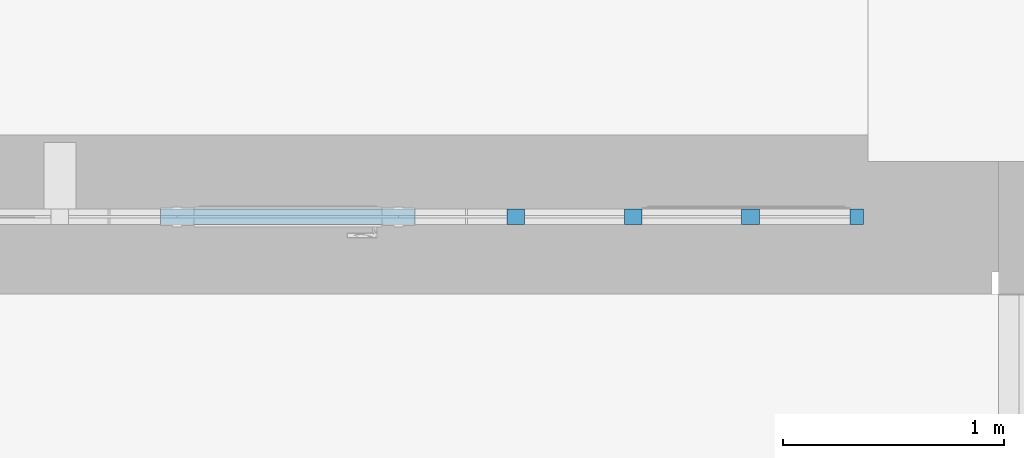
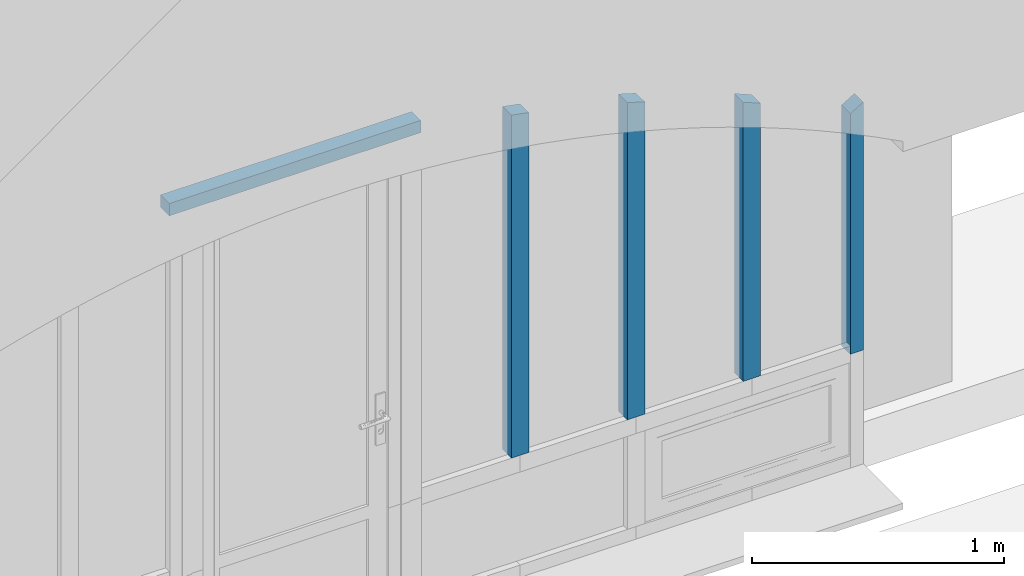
# One storey, part 15 of 88: 5 members, 1 element without a shape of its own.
"""IFC2X3 building model written with IfcOpenShell, lengths in millimetres."""

from ifc_helpers import new_model, entity, si_unit, converted_unit, derived_unit, direction, frame, frame_2d, origin, place, context, subcontext, project, spatial, polyline, circle_curve, parameter, trimmed, segment, composite_curve, rectangle, outline, extrude, source, transform, mapped, material, type_object, type_shapes, element, aggregate, save


model = new_model("IFC2X3")

# Units and contexts
model_context = context("Model", 3, precision=0.01, world=origin(), true_north=direction((6.123031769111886e-17, 1.0)))
body_context = subcontext(model_context, "Body", "Model", "MODEL_VIEW")
ifc_project = project(units=[si_unit("LENGTHUNIT", "METRE", prefix="MILLI"), si_unit("AREAUNIT", "SQUARE_METRE"), si_unit("VOLUMEUNIT", "CUBIC_METRE"), converted_unit("PLANEANGLEUNIT", "DEGREE", entity("IfcPlaneAngleMeasure", 0.017453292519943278), si_unit("PLANEANGLEUNIT", "RADIAN"), dimensions=[0, 0, 0, 0, 0, 0, 0]), si_unit("MASSUNIT", "GRAM", prefix="KILO"), derived_unit("MASSDENSITYUNIT", [(si_unit("MASSUNIT", "GRAM", prefix="KILO"), 1), (si_unit("LENGTHUNIT", "METRE"), -3)]), derived_unit("IONCONCENTRATIONUNIT", [(si_unit("MASSUNIT", "GRAM", prefix="KILO"), 1), (si_unit("LENGTHUNIT", "METRE"), -3)]), derived_unit("MOMENTOFINERTIAUNIT", [(si_unit("LENGTHUNIT", "METRE"), 4)]), si_unit("TIMEUNIT", "SECOND"), si_unit("FREQUENCYUNIT", "HERTZ"), si_unit("THERMODYNAMICTEMPERATUREUNIT", "DEGREE_CELSIUS"), derived_unit("THERMALTRANSMITTANCEUNIT", [(si_unit("MASSUNIT", "GRAM", prefix="KILO"), 1), (si_unit("THERMODYNAMICTEMPERATUREUNIT", "KELVIN"), -1), (si_unit("TIMEUNIT", "SECOND"), -3)]), derived_unit("THERMALCONDUCTANCEUNIT", [(si_unit("MASSUNIT", "GRAM", prefix="KILO"), 1), (si_unit("THERMODYNAMICTEMPERATUREUNIT", "KELVIN"), -1), (si_unit("TIMEUNIT", "SECOND"), -3), (si_unit("LENGTHUNIT", "METRE"), 1)]), derived_unit("VOLUMETRICFLOWRATEUNIT", [(si_unit("LENGTHUNIT", "METRE", prefix="DECI"), 3), (si_unit("TIMEUNIT", "SECOND"), -1)]), derived_unit("MASSFLOWRATEUNIT", [(si_unit("MASSUNIT", "GRAM", prefix="KILO"), 1), (si_unit("TIMEUNIT", "SECOND"), -1)]), derived_unit("ROTATIONALFREQUENCYUNIT", [(si_unit("TIMEUNIT", "SECOND"), -1)]), si_unit("ELECTRICCURRENTUNIT", "AMPERE"), si_unit("ELECTRICVOLTAGEUNIT", "VOLT"), si_unit("POWERUNIT", "WATT"), si_unit("FORCEUNIT", "NEWTON", prefix="KILO"), si_unit("ILLUMINANCEUNIT", "LUX"), si_unit("LUMINOUSFLUXUNIT", "LUMEN"), si_unit("LUMINOUSINTENSITYUNIT", "CANDELA"), si_unit("ENERGYUNIT", "JOULE"), derived_unit("USERDEFINED", [(si_unit("MASSUNIT", "GRAM", prefix="KILO"), -1), (si_unit("LENGTHUNIT", "METRE"), -2), (si_unit("TIMEUNIT", "SECOND"), 3), (si_unit("LUMINOUSFLUXUNIT", "LUMEN"), 1)]), derived_unit("USERDEFINED", [(si_unit("MASSUNIT", "GRAM", prefix="KILO"), 1), (si_unit("TIMEUNIT", "SECOND"), -3), (si_unit("LENGTHUNIT", "METRE"), 3), (si_unit("ELECTRICCURRENTUNIT", "AMPERE"), -2)]), derived_unit("SOUNDPOWERUNIT", [(si_unit("MASSUNIT", "GRAM", prefix="KILO"), 1), (si_unit("TIMEUNIT", "SECOND"), -3), (si_unit("LENGTHUNIT", "METRE"), 2)]), derived_unit("SOUNDPRESSUREUNIT", [(si_unit("MASSUNIT", "GRAM", prefix="KILO"), 1), (si_unit("LENGTHUNIT", "METRE"), -1), (si_unit("TIMEUNIT", "SECOND"), -2)]), derived_unit("LINEARVELOCITYUNIT", [(si_unit("LENGTHUNIT", "METRE"), 1), (si_unit("TIMEUNIT", "SECOND"), -1)]), si_unit("PRESSUREUNIT", "PASCAL"), derived_unit("USERDEFINED", [(si_unit("MASSUNIT", "GRAM", prefix="KILO"), 1), (si_unit("LENGTHUNIT", "METRE"), -2), (si_unit("TIMEUNIT", "SECOND"), -2)]), derived_unit("LINEARFORCEUNIT", [(si_unit("MASSUNIT", "GRAM", prefix="KILO"), 1), (si_unit("TIMEUNIT", "SECOND"), -2)]), derived_unit("PLANARFORCEUNIT", [(si_unit("MASSUNIT", "GRAM", prefix="KILO"), 1), (si_unit("LENGTHUNIT", "METRE"), -1), (si_unit("TIMEUNIT", "SECOND"), -2)]), derived_unit("SPECIFICHEATCAPACITYUNIT", [(si_unit("THERMODYNAMICTEMPERATUREUNIT", "KELVIN"), -1), (si_unit("LENGTHUNIT", "METRE"), 2), (si_unit("TIMEUNIT", "SECOND"), -2)]), derived_unit("HEATFLUXDENSITYUNIT", [(si_unit("MASSUNIT", "GRAM", prefix="KILO"), 1), (si_unit("TIMEUNIT", "SECOND"), -3)]), derived_unit("HEATINGVALUEUNIT", [(si_unit("LENGTHUNIT", "METRE"), 2), (si_unit("TIMEUNIT", "SECOND"), -2)]), derived_unit("VAPORPERMEABILITYUNIT", [(si_unit("LENGTHUNIT", "METRE"), -1), (si_unit("TIMEUNIT", "SECOND"), 1)]), derived_unit("DYNAMICVISCOSITYUNIT", [(si_unit("MASSUNIT", "GRAM", prefix="KILO"), 1), (si_unit("TIMEUNIT", "SECOND"), -1), (si_unit("LENGTHUNIT", "METRE"), -1)]), derived_unit("THERMALEXPANSIONCOEFFICIENTUNIT", [(si_unit("THERMODYNAMICTEMPERATUREUNIT", "KELVIN"), -1)]), derived_unit("MODULUSOFELASTICITYUNIT", [(si_unit("MASSUNIT", "GRAM", prefix="KILO"), 1), (si_unit("LENGTHUNIT", "METRE"), -1), (si_unit("TIMEUNIT", "SECOND"), -2)]), derived_unit("ISOTHERMALMOISTURECAPACITYUNIT", [(si_unit("MASSUNIT", "GRAM", prefix="KILO"), -1), (si_unit("LENGTHUNIT", "METRE"), 3)]), derived_unit("MOISTUREDIFFUSIVITYUNIT", [(si_unit("TIMEUNIT", "SECOND"), -1), (si_unit("LENGTHUNIT", "METRE"), 2)]), derived_unit("MASSPERLENGTHUNIT", [(si_unit("MASSUNIT", "GRAM", prefix="KILO"), 1), (si_unit("LENGTHUNIT", "METRE"), -1)]), derived_unit("THERMALRESISTANCEUNIT", [(si_unit("MASSUNIT", "GRAM", prefix="KILO"), -1), (si_unit("TIMEUNIT", "SECOND"), 3), (si_unit("THERMODYNAMICTEMPERATUREUNIT", "KELVIN"), 1)]), derived_unit("ACCELERATIONUNIT", [(si_unit("LENGTHUNIT", "METRE"), 1), (si_unit("TIMEUNIT", "SECOND"), -2)]), derived_unit("ANGULARVELOCITYUNIT", [(si_unit("TIMEUNIT", "SECOND"), -1), (si_unit("PLANEANGLEUNIT", "RADIAN"), 1)]), derived_unit("LINEARSTIFFNESSUNIT", [(si_unit("MASSUNIT", "GRAM", prefix="KILO"), 1), (si_unit("TIMEUNIT", "SECOND"), -2)]), derived_unit("WARPINGCONSTANTUNIT", [(si_unit("LENGTHUNIT", "METRE"), 6)]), derived_unit("LINEARMOMENTUNIT", [(si_unit("MASSUNIT", "GRAM", prefix="KILO"), 1), (si_unit("LENGTHUNIT", "METRE"), 1), (si_unit("TIMEUNIT", "SECOND"), -2)]), derived_unit("TORQUEUNIT", [(si_unit("MASSUNIT", "GRAM", prefix="KILO"), 1), (si_unit("LENGTHUNIT", "METRE"), 2), (si_unit("TIMEUNIT", "SECOND"), -2)])], contexts=[model_context])

# Site, building, storey
site_placement = place(None, origin())
site = spatial("IfcSite", under=ifc_project, at=site_placement, Name="Default", CompositionType="ELEMENT")
building_placement = place(site_placement, origin())
building = spatial("IfcBuilding", under=site, at=building_placement, Name="Eesti Rahvusraamatukogu hoone renoveerimise projekteerimistööd", CompositionType="ELEMENT")
storey_placement = place(building_placement, origin())
storey = spatial("IfcBuildingStorey", under=building, at=storey_placement, Name="1. korrus", CompositionType="ELEMENT", Elevation=0.0)

# Curtain wall, members
curtain_wall_type = type_object("IfcCurtainWallType", Name="Curtain Wall:Ak-05", PredefinedType="NOTDEFINED")
curtain_wall_placement = place(storey_placement, origin())
curtain_wall = element("IfcCurtainWall", 1, at=curtain_wall_placement, inside=storey, type_object=curtain_wall_type, Name="Curtain Wall:Ak-05", ObjectType="Curtain Wall:Ak-05")
ifc_material = material(Name="LUMION_dark steel window frames")
member_type_1 = type_object("IfcMemberType", Name="Rectangular Mullion:NEW 60x70mm", PredefinedType="MULLION", material=ifc_material)
shared_shape_1 = source(origin(), body_context, "Body", "SweptSolid", [
    extrude(outline(polyline([(-608.8836344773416, -30.0), (590.8870214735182, -30.0), (590.8870214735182, 30.0), (-572.8904084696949, 30.0), (-608.8836344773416, -30.0)])), frame((-30.0, -35.0, -608.8836344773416), z_axis=(0.0, 1.0, 0.0), x_axis=(0.0, 0.0, -1.0)), (0.0, 0.0, 1.0), 70.00000000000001),
])
type_shapes(member_type_1, [shared_shape_1])
member_1_placement = place(curtain_wall_placement, frame((-37390.0, 54340.0, 1699.7706559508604)))
member_1 = element("IfcMember", 2, at=member_1_placement, type_object=member_type_1, material=ifc_material, Name="Rectangular Mullion:NEW 60x70mm", ObjectType="Rectangular Mullion:NEW 60x70mm", context=body_context, shape_type="MappedRepresentation", body=[
    mapped(shared_shape_1, transform((0.0, 0.0, 0.0), scale=1.0)),
])
member_type_2 = type_object("IfcMemberType", Name="Rectangular Mullion:NEW 60x70mm", PredefinedType="MULLION", material=ifc_material)
shared_shape_2 = source(origin(), body_context, "Body", "SweptSolid", [
    extrude(rectangle(XDim=60.0, YDim=70.0, at=frame_2d((0.0, -3.552713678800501e-15), x_axis=(1.0, 0.0))), frame((0.0, 0.0, -1150.0), z_axis=(0.0, 0.0, 1.0), x_axis=(-1.0, 0.0, 0.0)), (0.0, 0.0, 1.0), 1149.9999999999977),
])
type_shapes(member_type_2, [shared_shape_2])
member_2_placement = place(curtain_wall_placement, frame((-40565.0, 54340.0, 2290.0), z_axis=(-1.0, 0.0, 0.0), x_axis=(0.0, 0.0, 1.0)))
member_2 = element("IfcMember", 3, at=member_2_placement, type_object=member_type_2, material=ifc_material, Name="Rectangular Mullion:NEW 60x70mm", ObjectType="Rectangular Mullion:NEW 60x70mm", context=body_context, shape_type="MappedRepresentation", body=[
    mapped(shared_shape_2, transform((0.0, 0.0, 0.0), scale=1.0)),
])
member_type_3 = type_object("IfcMemberType", Name="Rectangular Mullion:NEW 80x70mm", PredefinedType="MULLION", material=ifc_material)
shared_shape_3 = source(origin(), body_context, "Body", "SweptSolid", [
    extrude(outline(composite_curve([segment(polyline([(-991.5820577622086, -37.76219950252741), (667.9703852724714, -37.76219950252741)]), True, "CONTINUOUS"), segment(trimmed(circle_curve(frame_2d((-4704.862624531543, -1027.7621995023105), x_axis=(0.9891368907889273, 0.14699731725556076)), 5463.280566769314), [parameter(1.9872788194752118)], [parameter(2.294672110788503)], True, "PARAMETER"), True, "CONTINUOUS"), segment(trimmed(circle_curve(frame_2d((-4704.862624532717, -1027.7621995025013), x_axis=(0.9824581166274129, 0.18648337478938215)), 5463.280566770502), [parameter(0.0)], [parameter(0.546930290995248)], True, "PARAMETER"), True, "CONTINUOUS"), segment(polyline([(652.6120185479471, 42.23780049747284), (-991.5820577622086, 42.23780049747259)]), True, "CONTINUOUS"), segment(polyline([(-991.5820577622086, 42.23780049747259), (-991.5820577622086, -37.76219950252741)]), True, "CONTINUOUS")], self_intersect=False)), frame((2.237800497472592, -35.0, -991.5820577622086), z_axis=(0.0, 1.0, 0.0), x_axis=(0.0, 0.0, -1.0)), (0.0, 0.0, 1.0), 69.99999999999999),
])
type_shapes(member_type_3, [shared_shape_3])
member_3_placement = place(curtain_wall_placement, frame((-38960.0, 54340.0, 540.0), z_axis=(0.0, 0.0, -1.0), x_axis=(-1.0, 0.0, 0.0)))
member_3 = element("IfcMember", 4, at=member_3_placement, type_object=member_type_3, material=ifc_material, Name="Rectangular Mullion:NEW 80x70mm", ObjectType="Rectangular Mullion:NEW 80x70mm", context=body_context, shape_type="MappedRepresentation", body=[
    mapped(shared_shape_3, transform((0.0, 0.0, 0.0), scale=1.0)),
])
member_type_4 = type_object("IfcMemberType", Name="Rectangular Mullion:NEW 80x70mm", PredefinedType="MULLION", material=ifc_material)
shared_shape_4 = source(origin(), body_context, "Body", "SweptSolid", [
    extrude(outline(composite_curve([segment(polyline([(-914.4623251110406, -36.610709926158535), (619.8312668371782, -36.610709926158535)]), True, "CONTINUOUS"), segment(trimmed(circle_curve(frame_2d((-4627.742891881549, -1556.6107099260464), x_axis=(0.9824581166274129, 0.18648337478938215)), 5463.280566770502), [parameter(5.406435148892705)], [parameter(5.658307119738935)], True, "PARAMETER"), True, "CONTINUOUS"), segment(trimmed(circle_curve(frame_2d((-4627.742891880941, -1556.6107099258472), x_axis=(0.9592847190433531, 0.28244083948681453)), 5463.280566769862), [parameter(0.0)], [parameter(0.6235815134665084)], True, "PARAMETER"), True, "CONTINUOUS"), segment(polyline([(595.9947117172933, 43.38929007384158), (-914.4623251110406, 43.389290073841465)]), True, "CONTINUOUS"), segment(polyline([(-914.4623251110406, 43.389290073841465), (-914.4623251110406, -36.610709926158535)]), True, "CONTINUOUS")], self_intersect=False)), frame((3.389290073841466, -35.0, -914.4623251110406), z_axis=(0.0, 1.0, 0.0), x_axis=(0.0, 0.0, -1.0)), (0.0, 0.0, 1.0), 69.99999999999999),
])
type_shapes(member_type_4, [shared_shape_4])
member_4_placement = place(curtain_wall_placement, frame((-38430.0, 54340.0, 540.0), z_axis=(0.0, 0.0, -1.0), x_axis=(-1.0, 0.0, 0.0)))
member_4 = element("IfcMember", 5, at=member_4_placement, type_object=member_type_4, material=ifc_material, Name="Rectangular Mullion:NEW 80x70mm", ObjectType="Rectangular Mullion:NEW 80x70mm", context=body_context, shape_type="MappedRepresentation", body=[
    mapped(shared_shape_4, transform((0.0, 0.0, 0.0), scale=1.0)),
])
member_type_5 = type_object("IfcMemberType", Name="Rectangular Mullion:NEW 80x70mm", PredefinedType="MULLION", material=ifc_material)
shared_shape_5 = source(origin(), body_context, "Body", "SweptSolid", [
    extrude(outline(composite_curve([segment(polyline([(-802.4490834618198, -35.45922034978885), (548.3531444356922, -35.45922034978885)]), True, "CONTINUOUS"), segment(trimmed(circle_curve(frame_2d((-4515.72965023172, -2085.459220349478), x_axis=(0.9592847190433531, 0.28244083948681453)), 5463.280566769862), [parameter(5.63274287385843)], [parameter(5.828569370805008)], True, "PARAMETER"), True, "CONTINUOUS"), segment(trimmed(circle_curve(frame_2d((-4515.729650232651, -2085.4592203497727), x_axis=(0.9256428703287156, 0.37839830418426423)), 5463.280566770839), [parameter(0.0)], [parameter(0.7122563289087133)], True, "PARAMETER"), True, "CONTINUOUS"), segment(polyline([(515.2279674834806, 44.54077965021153), (-802.4490834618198, 44.54077965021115)]), True, "CONTINUOUS"), segment(polyline([(-802.4490834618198, 44.54077965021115), (-802.4490834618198, -35.45922034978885)]), True, "CONTINUOUS")], self_intersect=False)), frame((4.540779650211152, -35.0, -802.4490834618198), z_axis=(0.0, 1.0, 0.0), x_axis=(0.0, 0.0, -1.0)), (0.0, 0.0, 1.0), 70.00000000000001),
])
type_shapes(member_type_5, [shared_shape_5])
member_5_placement = place(curtain_wall_placement, frame((-37900.0, 54340.0, 540.0), z_axis=(0.0, 0.0, -1.0), x_axis=(-1.0, 0.0, 0.0)))
member_5 = element("IfcMember", 6, at=member_5_placement, type_object=member_type_5, material=ifc_material, Name="Rectangular Mullion:NEW 80x70mm", ObjectType="Rectangular Mullion:NEW 80x70mm", context=body_context, shape_type="MappedRepresentation", body=[
    mapped(shared_shape_5, transform((0.0, 0.0, 0.0), scale=1.0)),
])
aggregate(curtain_wall, [member_1, member_2, member_3, member_4, member_5])

save(model, "model.ifc")
